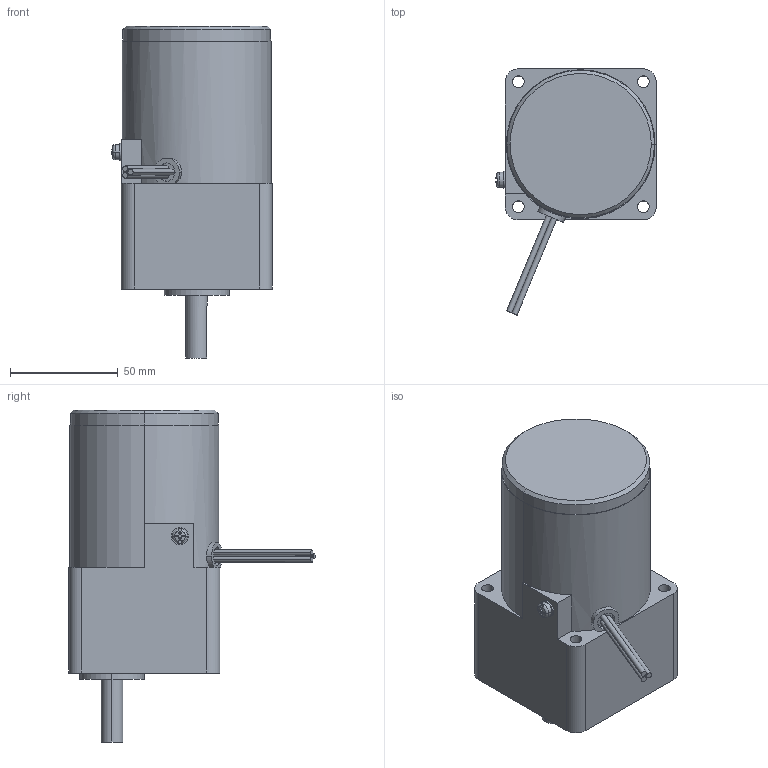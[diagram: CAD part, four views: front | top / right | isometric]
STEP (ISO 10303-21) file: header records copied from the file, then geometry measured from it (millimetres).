
FILE_DESCRIPTION (( 'STEP AP203' ), '1' );
FILE_NAME ('3_K_GN-_W2__3GN_2K.STEP', '2022-06-15T21:50:56', ( '' ), ( '' ), 'SwSTEP 2.0', 'SolidWorks 2022', '' );
FILE_SCHEMA (( 'CONFIG_CONTROL_DESIGN' ));
Length unit declared in the file: millimetre
Products named in the file (1): 3_K_GN-_W2__3GN_2K
Bounding box: 74.37 x 114.23 x 154 mm (x, y, z)
Volume: 505750.4 mm3; surface area: 49483 mm2
Topology: 1 solids, 2 shells, 128 faces, 336 edges, 222 vertices
Faces by surface type: cylinder 75, plane 45, sphere 4, torus 2, cone 2
Entity records: 4372 total; most frequent: CARTESIAN_POINT 1001, DIRECTION 730, ORIENTED_EDGE 672, EDGE_CURVE 336, AXIS2_PLACEMENT_3D 290, VERTEX_POINT 222, CIRCLE 161, VECTOR 150
